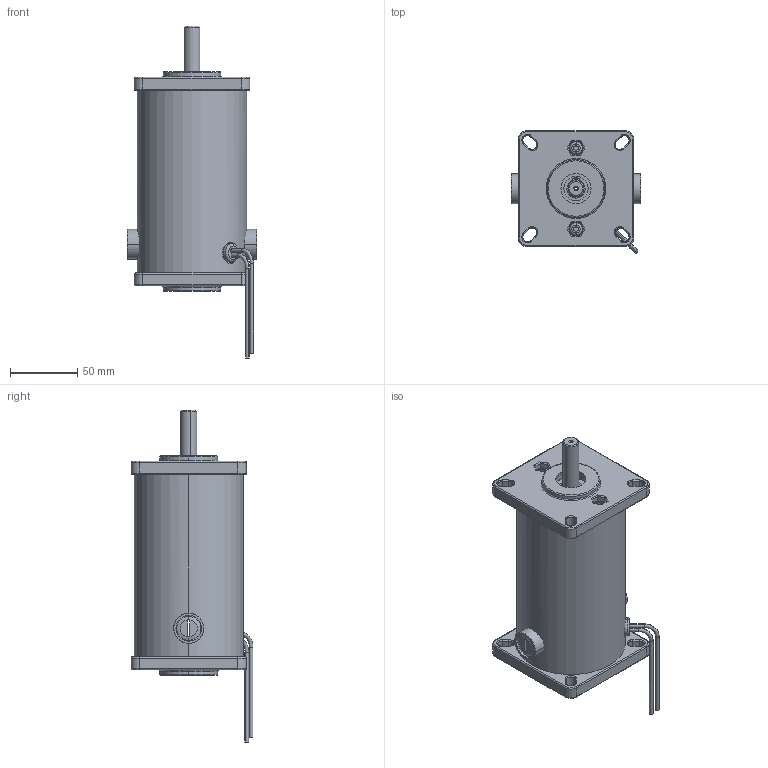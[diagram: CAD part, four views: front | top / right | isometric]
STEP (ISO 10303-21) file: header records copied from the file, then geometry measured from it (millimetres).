
FILE_DESCRIPTION (( 'STEP AP203' ), '1' );
FILE_NAME ('OUTLINE PM8014LV.STEP', '2006-08-04T13:40:39', ( 'Eng-KVV2' ), ( 'Groschopp' ), 'SwSTEP 2.0', 'SolidWorks 2006004', '' );
FILE_SCHEMA (( 'CONFIG_CONTROL_DESIGN' ));
Length unit declared in the file: inch
Products named in the file (1): OUTLINE PM8014LV
Bounding box: 96.27 x 90.51 x 246.37 mm (x, y, z)
Surface area: 77386.9 mm2 (no closed solid volume)
Topology: 0 solids, 28 shells, 396 faces, 986 edges, 617 vertices
Faces by surface type: cylinder 202, plane 89, torus 84, cone 21
Entity records: 12211 total; most frequent: CARTESIAN_POINT 2454, DIRECTION 2289, ORIENTED_EDGE 1774, EDGE_CURVE 986, AXIS2_PLACEMENT_3D 948, VERTEX_POINT 617, CIRCLE 551, EDGE_LOOP 443
